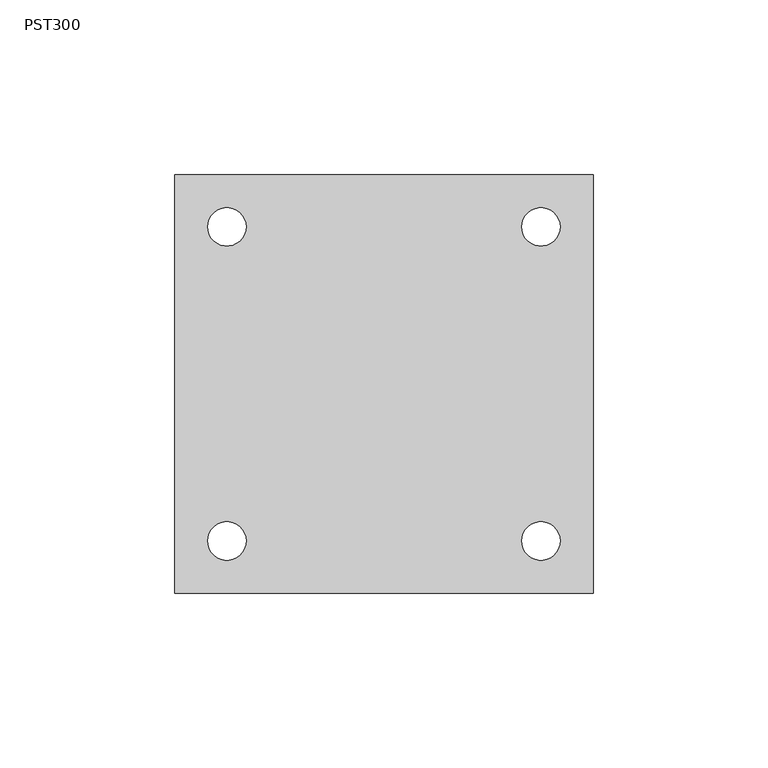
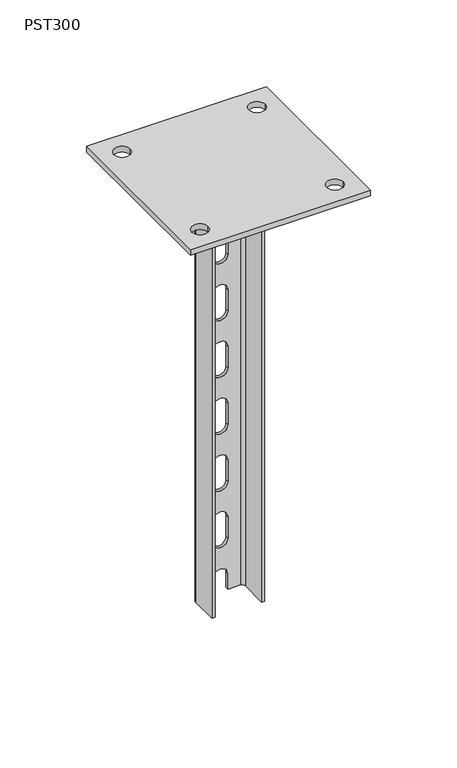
"""IFC4 building model written with IfcOpenShell, lengths in millimetres: proxy geometry, КМ Профиль_Стойка потолочная облегчённая PST : PST300."""

from ifc_helpers import new_model, si_unit, point, frame, frame_2d, origin, place, context, project, spatial, polyline, circle_curve, trimmed, segment, composite_curve, outline, extrude, source, transform, mapped, element, save
from ifc_brep_helpers import plane_surface, cylinder_surface, revolved_surface, advanced_brep


def pst300_8e1cfdff(model_context):
    return source(origin(), model_context, "Body", "SolidModel", [
        advanced_brep(
        [(17.5, -11.5, -4.0), (17.5, 7.5, -4.0), (13.5, 11.5, -4.0), (-13.5, 11.5, -4.0), (-17.5, 7.5, -4.0), (-17.5, -11.5, -4.0), (-15.5, -11.5, -4.0), (-15.5, 7.5, -4.0), (-13.5, 9.5, -4.0), (13.5, 9.5, -4.0), (15.5, 7.5, -4.0), (15.5, -11.5, -4.0), (17.5, 7.5, -304.0), (17.5, -11.5, -304.0), (15.5, -11.5, -304.0), (15.5, 7.5, -304.0), (13.5, 9.5, -304.0), (5.0, 9.5, -304.0), (5.0, 11.5, -304.0), (13.5, 11.5, -304.0), (-17.5, 7.5, -304.0), (-13.5, 11.5, -304.0), (-5.0, 11.5, -304.0), (-5.0, 9.5, -304.0), (-13.5, 9.5, -304.0), (-15.5, 7.5, -304.0), (-15.5, -11.5, -304.0), (-17.5, -11.5, -304.0), (5.0, 11.5, -293.0), (-5.0, 11.5, -293.0), (-5.0, 11.5, -53.0), (-5.0, 11.5, -68.0), (5.0, 11.5, -68.0), (5.0, 11.5, -53.0), (-5.0, 11.5, -93.0), (-5.0, 11.5, -108.0), (5.0, 11.5, -108.0), (5.0, 11.5, -93.0), (-5.0, 11.5, -133.0), (-5.0, 11.5, -148.0), (5.0, 11.5, -148.0), (5.0, 11.5, -133.0), (-5.0, 11.5, -173.0), (-5.0, 11.5, -188.0), (5.0, 11.5, -188.0), (5.0, 11.5, -173.0), (-5.0, 11.5, -213.0), (-5.0, 11.5, -228.0), (5.0, 11.5, -228.0), (5.0, 11.5, -213.0), (-5.0, 11.5, -13.0), (-5.0, 11.5, -28.0), (5.0, 11.5, -28.0), (5.0, 11.5, -13.0), (-5.0, 11.5, -253.0), (-5.0, 11.5, -268.0), (5.0, 11.5, -268.0), (5.0, 11.5, -253.0), (-5.0, 9.5, -293.0), (5.0, 9.5, -293.0), (-5.0, 9.5, -68.0), (-5.0, 9.5, -53.0), (5.0, 9.5, -53.0), (5.0, 9.5, -68.0), (-5.0, 9.5, -108.0), (-5.0, 9.5, -93.0), (5.0, 9.5, -93.0), (5.0, 9.5, -108.0), (-5.0, 9.5, -148.0), (-5.0, 9.5, -133.0), (5.0, 9.5, -133.0), (5.0, 9.5, -148.0), (-5.0, 9.5, -188.0), (-5.0, 9.5, -173.0), (5.0, 9.5, -173.0), (5.0, 9.5, -188.0), (-5.0, 9.5, -228.0), (-5.0, 9.5, -213.0), (5.0, 9.5, -213.0), (5.0, 9.5, -228.0), (-5.0, 9.5, -28.0), (-5.0, 9.5, -13.0), (5.0, 9.5, -13.0), (5.0, 9.5, -28.0), (-5.0, 9.5, -268.0), (-5.0, 9.5, -253.0), (5.0, 9.5, -253.0), (5.0, 9.5, -268.0)],
        [
            (0, 1),
            (1, 2, circle_curve(frame((13.5, 7.5, -4.0), z_axis=(0.0, 0.0, 1.0), x_axis=(1.0, 0.0, 0.0)), 4.0)),
            (2, 3),
            (3, 4, circle_curve(frame((-13.5, 7.5, -4.0), z_axis=(0.0, 0.0, 1.0), x_axis=(1.0, 0.0, 0.0)), 4.0)),
            (4, 5),
            (5, 6),
            (6, 7),
            (7, 8, circle_curve(frame((-13.5, 7.5, -4.0), z_axis=(0.0, 0.0, -1.0), x_axis=(1.0, 0.0, 0.0)), 2.0)),
            (8, 9),
            (9, 10, circle_curve(frame((13.5, 7.5, -4.0), z_axis=(0.0, 0.0, -1.0), x_axis=(1.0, 0.0, 0.0)), 2.0)),
            (10, 11),
            (11, 0),
            (12, 13),
            (13, 14),
            (14, 15),
            (15, 16, circle_curve(frame((13.5, 7.5, -304.0), z_axis=(0.0, 0.0, 1.0), x_axis=(1.0, 0.0, 0.0)), 2.0)),
            (16, 17),
            (17, 18),
            (18, 19),
            (19, 12, circle_curve(frame((13.5, 7.5, -304.0), z_axis=(0.0, 0.0, -1.0), x_axis=(1.0, 0.0, 0.0)), 4.0)),
            (20, 21, circle_curve(frame((-13.5, 7.5, -304.0), z_axis=(0.0, 0.0, -1.0), x_axis=(1.0, 0.0, 0.0)), 4.0)),
            (21, 22),
            (22, 23),
            (23, 24),
            (24, 25, circle_curve(frame((-13.5, 7.5, -304.0), z_axis=(0.0, 0.0, 1.0), x_axis=(1.0, 0.0, 0.0)), 2.0)),
            (25, 26),
            (26, 27),
            (27, 20),
            (0, 13),
            (12, 1),
            (19, 2),
            (18, 28),
            (28, 29, circle_curve(frame((0.0, 11.5, -293.0), z_axis=(0.0, -1.0, 0.0), x_axis=(0.0, 0.0, -1.0)), 5.0)),
            (29, 22),
            (21, 3),
            (30, 31),
            (31, 32, circle_curve(frame((0.0, 11.5, -68.0), z_axis=(0.0, -1.0, 0.0), x_axis=(0.0, 0.0, -1.0)), 5.0)),
            (32, 33),
            (33, 30, circle_curve(frame((0.0, 11.5, -53.0), z_axis=(0.0, -1.0, 0.0), x_axis=(0.0, 0.0, -1.0)), 5.0)),
            (34, 35),
            (35, 36, circle_curve(frame((0.0, 11.5, -108.0), z_axis=(0.0, -1.0, 0.0), x_axis=(0.0, 0.0, -1.0)), 5.0)),
            (36, 37),
            (37, 34, circle_curve(frame((0.0, 11.5, -93.0), z_axis=(0.0, -1.0, 0.0), x_axis=(0.0, 0.0, -1.0)), 5.0)),
            (38, 39),
            (39, 40, circle_curve(frame((0.0, 11.5, -148.0), z_axis=(0.0, -1.0, 0.0), x_axis=(0.0, 0.0, -1.0)), 5.0)),
            (40, 41),
            (41, 38, circle_curve(frame((0.0, 11.5, -133.0), z_axis=(0.0, -1.0, 0.0), x_axis=(0.0, 0.0, -1.0)), 5.0)),
            (42, 43),
            (43, 44, circle_curve(frame((0.0, 11.5, -188.0), z_axis=(0.0, -1.0, 0.0), x_axis=(0.0, 0.0, -1.0)), 5.0)),
            (44, 45),
            (45, 42, circle_curve(frame((0.0, 11.5, -173.0), z_axis=(0.0, -1.0, 0.0), x_axis=(0.0, 0.0, -1.0)), 5.0)),
            (46, 47),
            (47, 48, circle_curve(frame((0.0, 11.5, -228.0), z_axis=(0.0, -1.0, 0.0), x_axis=(0.0, 0.0, -1.0)), 5.0)),
            (48, 49),
            (49, 46, circle_curve(frame((0.0, 11.5, -213.0), z_axis=(0.0, -1.0, 0.0), x_axis=(0.0, 0.0, -1.0)), 5.0)),
            (50, 51),
            (51, 52, circle_curve(frame((0.0, 11.5, -28.0), z_axis=(0.0, -1.0, 0.0), x_axis=(0.0, 0.0, -1.0)), 5.0)),
            (52, 53),
            (53, 50, circle_curve(frame((0.0, 11.5, -13.0), z_axis=(0.0, -1.0, 0.0), x_axis=(0.0, 0.0, -1.0)), 5.0)),
            (54, 55),
            (55, 56, circle_curve(frame((0.0, 11.5, -268.0), z_axis=(0.0, -1.0, 0.0), x_axis=(0.0, 0.0, -1.0)), 5.0)),
            (56, 57),
            (57, 54, circle_curve(frame((0.0, 11.5, -253.0), z_axis=(0.0, -1.0, 0.0), x_axis=(0.0, 0.0, -1.0)), 5.0)),
            (20, 4),
            (27, 5),
            (26, 6),
            (25, 7),
            (24, 8),
            (23, 58),
            (58, 59, circle_curve(frame((0.0, 9.5, -293.0), z_axis=(0.0, 1.0, 0.0), x_axis=(0.0, 0.0, -1.0)), 5.0)),
            (59, 17),
            (16, 9),
            (60, 61),
            (61, 62, circle_curve(frame((0.0, 9.5, -53.0), z_axis=(0.0, 1.0, 0.0), x_axis=(0.0, 0.0, -1.0)), 5.0)),
            (62, 63),
            (63, 60, circle_curve(frame((0.0, 9.5, -68.0), z_axis=(0.0, 1.0, 0.0), x_axis=(0.0, 0.0, -1.0)), 5.0)),
            (64, 65),
            (65, 66, circle_curve(frame((0.0, 9.5, -93.0), z_axis=(0.0, 1.0, 0.0), x_axis=(0.0, 0.0, -1.0)), 5.0)),
            (66, 67),
            (67, 64, circle_curve(frame((0.0, 9.5, -108.0), z_axis=(0.0, 1.0, 0.0), x_axis=(0.0, 0.0, -1.0)), 5.0)),
            (68, 69),
            (69, 70, circle_curve(frame((0.0, 9.5, -133.0), z_axis=(0.0, 1.0, 0.0), x_axis=(0.0, 0.0, -1.0)), 5.0)),
            (70, 71),
            (71, 68, circle_curve(frame((0.0, 9.5, -148.0), z_axis=(0.0, 1.0, 0.0), x_axis=(0.0, 0.0, -1.0)), 5.0)),
            (72, 73),
            (73, 74, circle_curve(frame((0.0, 9.5, -173.0), z_axis=(0.0, 1.0, 0.0), x_axis=(0.0, 0.0, -1.0)), 5.0)),
            (74, 75),
            (75, 72, circle_curve(frame((0.0, 9.5, -188.0), z_axis=(0.0, 1.0, 0.0), x_axis=(0.0, 0.0, -1.0)), 5.0)),
            (76, 77),
            (77, 78, circle_curve(frame((0.0, 9.5, -213.0), z_axis=(0.0, 1.0, 0.0), x_axis=(0.0, 0.0, -1.0)), 5.0)),
            (78, 79),
            (79, 76, circle_curve(frame((0.0, 9.5, -228.0), z_axis=(0.0, 1.0, 0.0), x_axis=(0.0, 0.0, -1.0)), 5.0)),
            (80, 81),
            (81, 82, circle_curve(frame((0.0, 9.5, -13.0), z_axis=(0.0, 1.0, 0.0), x_axis=(0.0, 0.0, -1.0)), 5.0)),
            (82, 83),
            (83, 80, circle_curve(frame((0.0, 9.5, -28.0), z_axis=(0.0, 1.0, 0.0), x_axis=(0.0, 0.0, -1.0)), 5.0)),
            (84, 85),
            (85, 86, circle_curve(frame((0.0, 9.5, -253.0), z_axis=(0.0, 1.0, 0.0), x_axis=(0.0, 0.0, -1.0)), 5.0)),
            (86, 87),
            (87, 84, circle_curve(frame((0.0, 9.5, -268.0), z_axis=(0.0, 1.0, 0.0), x_axis=(0.0, 0.0, -1.0)), 5.0)),
            (15, 10),
            (14, 11),
            (30, 61),
            (60, 31),
            (33, 62),
            (32, 63),
            (34, 65),
            (64, 35),
            (37, 66),
            (36, 67),
            (38, 69),
            (68, 39),
            (41, 70),
            (40, 71),
            (42, 73),
            (72, 43),
            (45, 74),
            (44, 75),
            (46, 77),
            (76, 47),
            (49, 78),
            (48, 79),
            (50, 81),
            (80, 51),
            (53, 82),
            (52, 83),
            (54, 85),
            (84, 55),
            (57, 86),
            (56, 87),
            (29, 58),
            (28, 59),
        ],
        [
            plane_surface(frame((17.5, 70.8587358, -4.0), z_axis=(0.0, 0.0, 1.0), x_axis=(0.0, 1.0, 0.0))),
            plane_surface(frame((17.5, 70.8587358, -304.0), z_axis=(0.0, 0.0, -1.0), x_axis=(0.0, -1.0, 0.0))),
            plane_surface(frame((17.5, -11.5, -4.0), z_axis=(1.0, 0.0, 0.0), x_axis=(0.0, 0.0, -1.0))),
            cylinder_surface(frame((13.5, 7.5, -304.0), z_axis=(0.0, 0.0, 1.0), x_axis=(1.0, 0.0, 0.0)), 4.0),
            plane_surface(frame((13.5, 11.5, -4.0), z_axis=(0.0, 1.0, 0.0), x_axis=(0.0, 0.0, -1.0))),
            cylinder_surface(frame((-13.5, 7.5, -304.0), z_axis=(0.0, 0.0, 1.0), x_axis=(1.0, 0.0, 0.0)), 4.0),
            plane_surface(frame((-17.5, 7.5, -4.0), z_axis=(-1.0, 0.0, 0.0), x_axis=(0.0, 0.0, -1.0))),
            plane_surface(frame((-17.5, -11.5, -4.0), z_axis=(0.0, -1.0, 0.0), x_axis=(0.0, 0.0, -1.0))),
            plane_surface(frame((-15.5, -11.5, -4.0), z_axis=(1.0, 0.0, 0.0), x_axis=(0.0, 0.0, -1.0))),
            revolved_surface(polyline([(-11.5, 7.5, -304.0), (-11.5, 7.5, -4.0)]), (-13.5, 7.5, -304.0), (0.0, 0.0, -1.0)),
            plane_surface(frame((-13.5, 9.5, -4.0), z_axis=(0.0, -1.0, 0.0), x_axis=(0.0, 0.0, -1.0))),
            revolved_surface(polyline([(15.5, 7.5, -304.0), (15.5, 7.5, -4.0)]), (13.5, 7.5, -304.0), (0.0, 0.0, -1.0)),
            plane_surface(frame((15.5, 7.5, -4.0), z_axis=(-1.0, 0.0, 0.0), x_axis=(0.0, 0.0, -1.0))),
            plane_surface(frame((15.5, -11.5, -4.0), z_axis=(0.0, -1.0, 0.0), x_axis=(0.0, 0.0, -1.0))),
            plane_surface(frame((-5.0, 11.5, -68.0), z_axis=(1.0, 0.0, 0.0), x_axis=(0.0, -1.0, 0.0))),
            revolved_surface(polyline([(0.0, 11.5, -58.0), (0.0, 9.5, -58.0)]), (0.0, 9.5, -53.0), (0.0, 1.0, 0.0)),
            plane_surface(frame((5.0, 11.5, -53.0), z_axis=(-1.0, 0.0, 0.0), x_axis=(0.0, -1.0, 0.0))),
            revolved_surface(polyline([(0.0, 11.5, -73.0), (0.0, 9.5, -73.0)]), (0.0, 9.5, -68.0), (0.0, 1.0, 0.0)),
            plane_surface(frame((-5.0, 11.5, -108.0), z_axis=(1.0, 0.0, 0.0), x_axis=(0.0, -1.0, 0.0))),
            revolved_surface(polyline([(0.0, 11.5, -98.0), (0.0, 9.5, -98.0)]), (0.0, 9.5, -93.0), (0.0, 1.0, 0.0)),
            plane_surface(frame((5.0, 11.5, -93.0), z_axis=(-1.0, 0.0, 0.0), x_axis=(0.0, -1.0, 0.0))),
            revolved_surface(polyline([(0.0, 11.5, -113.0), (0.0, 9.5, -113.0)]), (0.0, 9.5, -108.0), (0.0, 1.0, 0.0)),
            plane_surface(frame((-5.0, 11.5, -148.0), z_axis=(1.0, 0.0, 0.0), x_axis=(0.0, -1.0, 0.0))),
            revolved_surface(polyline([(0.0, 11.5, -138.0), (0.0, 9.5, -138.0)]), (0.0, 9.5, -133.0), (0.0, 1.0, 0.0)),
            plane_surface(frame((5.0, 11.5, -133.0), z_axis=(-1.0, 0.0, 0.0), x_axis=(0.0, -1.0, 0.0))),
            revolved_surface(polyline([(0.0, 11.5, -153.0), (0.0, 9.5, -153.0)]), (0.0, 9.5, -148.0), (0.0, 1.0, 0.0)),
            plane_surface(frame((-5.0, 11.5, -188.0), z_axis=(1.0, 0.0, 0.0), x_axis=(0.0, -1.0, 0.0))),
            revolved_surface(polyline([(0.0, 11.5, -178.0), (0.0, 9.5, -178.0)]), (0.0, 9.5, -173.0), (0.0, 1.0, 0.0)),
            plane_surface(frame((5.0, 11.5, -173.0), z_axis=(-1.0, 0.0, 0.0), x_axis=(0.0, -1.0, 0.0))),
            revolved_surface(polyline([(0.0, 11.5, -193.0), (0.0, 9.5, -193.0)]), (0.0, 9.5, -188.0), (0.0, 1.0, 0.0)),
            plane_surface(frame((-5.0, 11.5, -228.0), z_axis=(1.0, 0.0, 0.0), x_axis=(0.0, -1.0, 0.0))),
            revolved_surface(polyline([(0.0, 11.5, -218.0), (0.0, 9.5, -218.0)]), (0.0, 9.5, -213.0), (0.0, 1.0, 0.0)),
            plane_surface(frame((5.0, 11.5, -213.0), z_axis=(-1.0, 0.0, 0.0), x_axis=(0.0, -1.0, 0.0))),
            revolved_surface(polyline([(0.0, 11.5, -233.0), (0.0, 9.5, -233.0)]), (0.0, 9.5, -228.0), (0.0, 1.0, 0.0)),
            plane_surface(frame((-5.0, 11.5, -28.0), z_axis=(1.0, 0.0, 0.0), x_axis=(0.0, -1.0, 0.0))),
            revolved_surface(polyline([(0.0, 11.5, -18.0), (0.0, 9.5, -18.0)]), (0.0, 9.5, -13.0), (0.0, 1.0, 0.0)),
            plane_surface(frame((5.0, 11.5, -13.0), z_axis=(-1.0, 0.0, 0.0), x_axis=(0.0, -1.0, 0.0))),
            revolved_surface(polyline([(0.0, 11.5, -33.0), (0.0, 9.5, -33.0)]), (0.0, 9.5, -28.0), (0.0, 1.0, 0.0)),
            plane_surface(frame((-5.0, 11.5, -268.0), z_axis=(1.0, 0.0, 0.0), x_axis=(0.0, -1.0, 0.0))),
            revolved_surface(polyline([(0.0, 11.5, -258.0), (0.0, 9.5, -258.0)]), (0.0, 9.5, -253.0), (0.0, 1.0, 0.0)),
            plane_surface(frame((5.0, 11.5, -253.0), z_axis=(-1.0, 0.0, 0.0), x_axis=(0.0, -1.0, 0.0))),
            revolved_surface(polyline([(0.0, 11.5, -273.0), (0.0, 9.5, -273.0)]), (0.0, 9.5, -268.0), (0.0, 1.0, 0.0)),
            plane_surface(frame((-5.0, 11.5, -308.0), z_axis=(1.0, 0.0, 0.0), x_axis=(0.0, -1.0, 0.0))),
            revolved_surface(polyline([(0.0, 11.5, -298.0), (0.0, 9.5, -298.0)]), (0.0, 9.5, -293.0), (0.0, 1.0, 0.0)),
            plane_surface(frame((5.0, 11.5, -293.0), z_axis=(-1.0, 0.0, 0.0), x_axis=(0.0, -1.0, 0.0))),
        ],
        [
            (0, [[1, 2, 3, 4, 5, 6, 7, 8, 9, 10, 11, 12]]),
            (1, [[13, 14, 15, 16, 17, 18, 19, 20]]),
            (1, [[21, 22, 23, 24, 25, 26, 27, 28]]),
            (2, [[-1, 29, -13, 30]]),
            (3, [[-2, -30, -20, 31]]),
            (4, [[-3, -31, -19, 32, 33, 34, -22, 35], [36, 37, 38, 39], [40, 41, 42, 43], [44, 45, 46, 47], [48, 49, 50, 51], [52, 53, 54, 55], [56, 57, 58, 59], [60, 61, 62, 63]]),
            (5, [[-4, -35, -21, 64]]),
            (6, [[-5, -64, -28, 65]]),
            (7, [[-6, -65, -27, 66]]),
            (8, [[-7, -66, -26, 67]]),
            (9, [[-8, -67, -25, 68]]),
            (10, [[-9, -68, -24, 69, 70, 71, -17, 72], [73, 74, 75, 76], [77, 78, 79, 80], [81, 82, 83, 84], [85, 86, 87, 88], [89, 90, 91, 92], [93, 94, 95, 96], [97, 98, 99, 100]]),
            (11, [[-10, -72, -16, 101]]),
            (12, [[-11, -101, -15, 102]]),
            (13, [[-12, -102, -14, -29]]),
            (14, [[103, -73, 104, -36]]),
            (15, [[-103, -39, 105, -74]]),
            (16, [[-105, -38, 106, -75]]),
            (17, [[-104, -76, -106, -37]]),
            (18, [[107, -77, 108, -40]]),
            (19, [[-107, -43, 109, -78]]),
            (20, [[-109, -42, 110, -79]]),
            (21, [[-108, -80, -110, -41]]),
            (22, [[111, -81, 112, -44]]),
            (23, [[-111, -47, 113, -82]]),
            (24, [[-113, -46, 114, -83]]),
            (25, [[-112, -84, -114, -45]]),
            (26, [[115, -85, 116, -48]]),
            (27, [[-115, -51, 117, -86]]),
            (28, [[-117, -50, 118, -87]]),
            (29, [[-116, -88, -118, -49]]),
            (30, [[119, -89, 120, -52]]),
            (31, [[-119, -55, 121, -90]]),
            (32, [[-121, -54, 122, -91]]),
            (33, [[-120, -92, -122, -53]]),
            (34, [[123, -93, 124, -56]]),
            (35, [[-123, -59, 125, -94]]),
            (36, [[-125, -58, 126, -95]]),
            (37, [[-124, -96, -126, -57]]),
            (38, [[127, -97, 128, -60]]),
            (39, [[-127, -63, 129, -98]]),
            (40, [[-129, -62, 130, -99]]),
            (41, [[-128, -100, -130, -61]]),
            (42, [[131, -69, -23, -34]]),
            (43, [[-131, -33, 132, -70]]),
            (44, [[-132, -32, -18, -71]]),
        ],
    ),
        extrude(outline(polyline([(-60.0, 60.0), (60.0, 60.0), (60.0, -60.0), (-60.0, -60.0), (-60.0, 60.0)]), holes=[composite_curve([segment(trimmed(circle_curve(frame_2d((-45.0, 45.0)), 5.5), [point((-50.5, 45.0))], [point((-39.5, 45.0))], True, "CARTESIAN"), True, "CONTINUOUS"), segment(trimmed(circle_curve(frame_2d((-45.0, 45.0)), 5.5), [point((-39.5, 45.0))], [point((-50.5, 45.0))], True, "CARTESIAN"), True, "CONTINUOUS")], self_intersect=False), composite_curve([segment(trimmed(circle_curve(frame_2d((45.0, 45.0)), 5.5), [point((39.5, 45.0))], [point((50.5, 45.0))], True, "CARTESIAN"), True, "CONTINUOUS"), segment(trimmed(circle_curve(frame_2d((45.0, 45.0)), 5.5), [point((50.5, 45.0))], [point((39.5, 45.0))], True, "CARTESIAN"), True, "CONTINUOUS")], self_intersect=False), composite_curve([segment(trimmed(circle_curve(frame_2d((45.0, -45.0)), 5.5), [point((39.5, -45.0))], [point((50.5, -45.0))], True, "CARTESIAN"), True, "CONTINUOUS"), segment(trimmed(circle_curve(frame_2d((45.0, -45.0)), 5.5), [point((50.5, -45.0))], [point((39.5, -45.0))], True, "CARTESIAN"), True, "CONTINUOUS")], self_intersect=False), composite_curve([segment(trimmed(circle_curve(frame_2d((-45.0, -45.0)), 5.5), [point((-50.5, -45.0))], [point((-39.5, -45.0))], True, "CARTESIAN"), True, "CONTINUOUS"), segment(trimmed(circle_curve(frame_2d((-45.0, -45.0)), 5.5), [point((-39.5, -45.0))], [point((-50.5, -45.0))], True, "CARTESIAN"), True, "CONTINUOUS")], self_intersect=False)]), frame((0.0, 0.0, -4.0), z_axis=(0.0, 0.0, 1.0), x_axis=(1.0, 0.0, 0.0)), (0.0, 0.0, 1.0), 4.0),
    ])


if __name__ == "__main__":
    model = new_model("IFC4")
    model_context = context("Model", 3, world=origin())
    ifc_project = project(units=[si_unit("LENGTHUNIT", "METRE", prefix="MILLI")], contexts=[model_context])
    site = spatial("IfcSite", under=ifc_project)
    building = spatial("IfcBuilding", under=site)
    placement = place(None, origin())
    pst300_shape = pst300_8e1cfdff(model_context)
    element("IfcBuildingElementProxy", 1, Name="КМ Профиль_Стойка потолочная облегчённая PST : PST300", ObjectType="КМ Профиль_Стойка потолочная облегчённая PST : PST300", at=placement, inside=building, context=model_context, shape_type="MappedRepresentation", body=[
        mapped(pst300_shape, transform((0.0, 0.0, 0.0), x_axis=(1.0, 0.0, 0.0), y_axis=(0.0, 1.0, 0.0), z_axis=(0.0, 0.0, 1.0))),
    ])
    save(model, "model.ifc")
